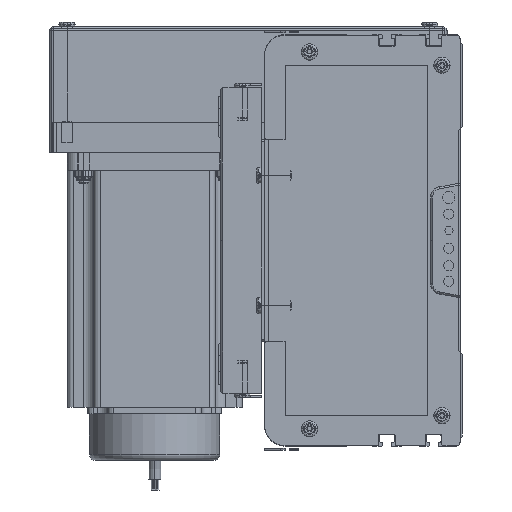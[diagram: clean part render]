
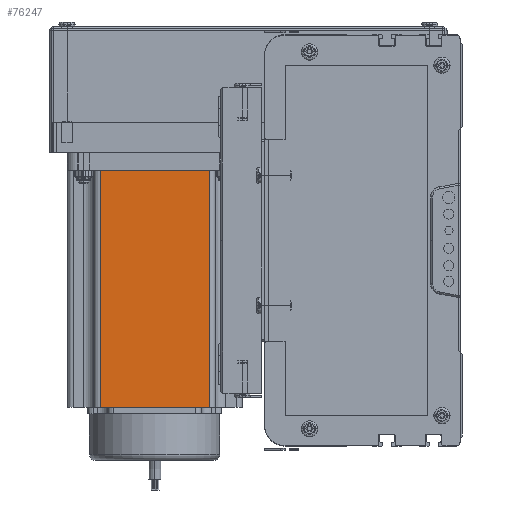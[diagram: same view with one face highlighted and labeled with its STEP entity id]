
A CAD part, left-side view. The second image highlights one B-rep face of the part: STEP entity #76247.
In plain terms, the highlighted planar face has unit normal (-1, 0, 0) as drawn and (0, -1, 0) by its records, which use the part's own axes.
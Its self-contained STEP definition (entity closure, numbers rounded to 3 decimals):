
#76161 = EDGE_LOOP ( 'NONE', ( #76245, #76244, #76336, #76185 ) ) ;
#76182 = EDGE_CURVE ( 'NONE', #76276, #76238, #156878, .T. ) ;
#76185 = ORIENTED_EDGE ( 'NONE', *, *, #76182, .T. ) ;
#76208 = EDGE_CURVE ( 'NONE', #76238, #76242, #157139, .T. ) ;
#76238 = VERTEX_POINT ( 'NONE', #157108 ) ;
#76242 = VERTEX_POINT ( 'NONE', #157104 ) ;
#76243 = VERTEX_POINT ( 'NONE', #157129 ) ;
#76244 = ORIENTED_EDGE ( 'NONE', *, *, #76246, .T. ) ;
#76245 = ORIENTED_EDGE ( 'NONE', *, *, #76208, .T. ) ;
#76246 = EDGE_CURVE ( 'NONE', #76242, #76243, #157199, .T. ) ;
#76247 = ADVANCED_FACE ( 'NONE', ( #157127 ), #157128, .F. ) ;
#76276 = VERTEX_POINT ( 'NONE', #157184 ) ;
#76336 = ORIENTED_EDGE ( 'NONE', *, *, #76337, .F. ) ;
#76337 = EDGE_CURVE ( 'NONE', #76276, #76243, #157519, .T. ) ;
#156875 = DIRECTION ( 'NONE',  ( 0., 0., -1. ) ) ;
#156876 = VECTOR ( 'NONE', #156875, 1000. ) ;
#156877 = CARTESIAN_POINT ( 'NONE',  ( 16.16, 0., 116.5 ) ) ;
#156878 = LINE ( 'NONE', #156877, #156876 ) ;
#157104 = CARTESIAN_POINT ( 'NONE',  ( 69.74, 0., 0. ) ) ;
#157108 = CARTESIAN_POINT ( 'NONE',  ( 16.16, 0., 0. ) ) ;
#157112 = DIRECTION ( 'NONE',  ( 0., 0., 1. ) ) ;
#157113 = DIRECTION ( 'NONE',  ( 0., 1., 0. ) ) ;
#157117 = DIRECTION ( 'NONE',  ( 0., 0., 1. ) ) ;
#157118 = VECTOR ( 'NONE', #157117, 1000. ) ;
#157119 = CARTESIAN_POINT ( 'NONE',  ( 69.74, 0., 116.5 ) ) ;
#157120 = CARTESIAN_POINT ( 'NONE',  ( 0., 0., 116.5 ) ) ;
#157122 = AXIS2_PLACEMENT_3D ( 'NONE', #157120, #157113, #157112 ) ;
#157127 = FACE_OUTER_BOUND ( 'NONE', #76161, .T. ) ;
#157128 = PLANE ( 'NONE',  #157122 ) ;
#157129 = CARTESIAN_POINT ( 'NONE',  ( 69.74, 0., 116.5 ) ) ;
#157131 = DIRECTION ( 'NONE',  ( 1., 0., 0. ) ) ;
#157132 = VECTOR ( 'NONE', #157131, 1000. ) ;
#157133 = CARTESIAN_POINT ( 'NONE',  ( 0., 0., 0. ) ) ;
#157139 = LINE ( 'NONE', #157133, #157132 ) ;
#157184 = CARTESIAN_POINT ( 'NONE',  ( 16.16, 0., 116.5 ) ) ;
#157199 = LINE ( 'NONE', #157119, #157118 ) ;
#157518 = CARTESIAN_POINT ( 'NONE',  ( 0., 0., 116.5 ) ) ;
#157519 = LINE ( 'NONE', #157518, #157551 ) ;
#157550 = DIRECTION ( 'NONE',  ( 1., 0., 0. ) ) ;
#157551 = VECTOR ( 'NONE', #157550, 1000. ) ;
